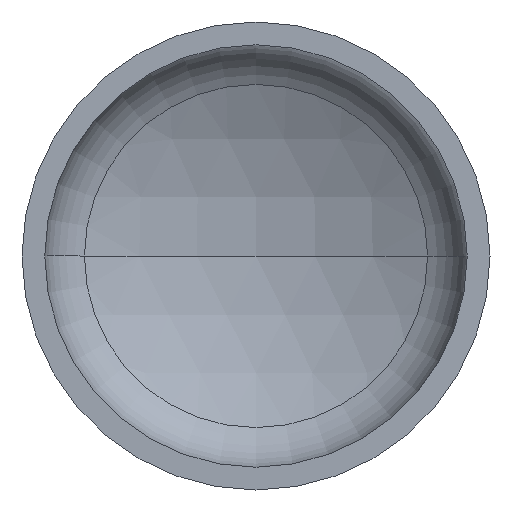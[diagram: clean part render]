
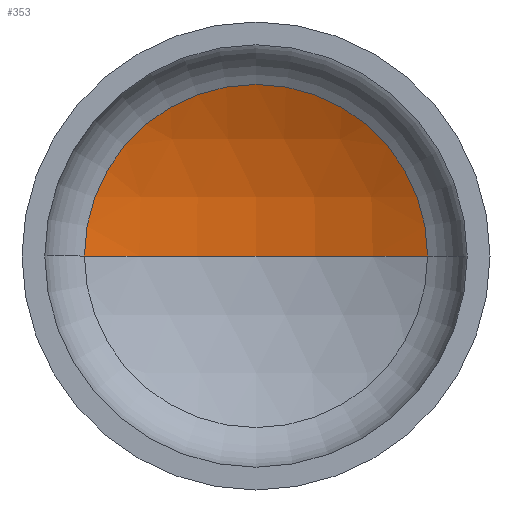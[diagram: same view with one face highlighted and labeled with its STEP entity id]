
A CAD part, front view. The second image highlights one B-rep face of the part: STEP entity #353.
In plain terms, the highlighted spherical face has radius 640 mm.
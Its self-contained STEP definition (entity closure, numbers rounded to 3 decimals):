
#6 = ORIENTED_EDGE ( 'NONE', *, *, #188, .T. ) ;
#10 = AXIS2_PLACEMENT_3D ( 'NONE', #358, #310, #227 ) ;
#30 = AXIS2_PLACEMENT_3D ( 'NONE', #43, #82, #69 ) ;
#31 = EDGE_LOOP ( 'NONE', ( #209, #6, #144 ) ) ;
#32 = AXIS2_PLACEMENT_3D ( 'NONE', #282, #252, #247 ) ;
#40 = AXIS2_PLACEMENT_3D ( 'NONE', #225, #223, #224 ) ;
#43 = CARTESIAN_POINT ( 'NONE',  ( 0., -337.743, 0. ) ) ;
#54 = VERTEX_POINT ( 'NONE', #256 ) ;
#69 = DIRECTION ( 'NONE',  ( 1., 0., 0. ) ) ;
#82 = DIRECTION ( 'NONE',  ( 0., 0., 1. ) ) ;
#108 = VERTEX_POINT ( 'NONE', #316 ) ;
#144 = ORIENTED_EDGE ( 'NONE', *, *, #171, .T. ) ;
#153 = VERTEX_POINT ( 'NONE', #221 ) ;
#171 = EDGE_CURVE ( 'NONE', #54, #108, #300, .T. ) ;
#188 = EDGE_CURVE ( 'NONE', #153, #54, #410, .T. ) ;
#194 = EDGE_CURVE ( 'NONE', #153, #108, #350, .T. ) ;
#209 = ORIENTED_EDGE ( 'NONE', *, *, #194, .F. ) ;
#221 = CARTESIAN_POINT ( 'NONE',  ( 0., 302.257, 0. ) ) ;
#223 = DIRECTION ( 'NONE',  ( 0., -1., 0. ) ) ;
#224 = DIRECTION ( 'NONE',  ( 1., 0., 0. ) ) ;
#225 = CARTESIAN_POINT ( 'NONE',  ( 0., 231.103, 0. ) ) ;
#227 = DIRECTION ( 'NONE',  ( -1., 0., 0. ) ) ;
#247 = DIRECTION ( 'NONE',  ( -1., 0., 0. ) ) ;
#252 = DIRECTION ( 'NONE',  ( 0., 0., -1. ) ) ;
#256 = CARTESIAN_POINT ( 'NONE',  ( 293.282, 231.103, 0. ) ) ;
#282 = CARTESIAN_POINT ( 'NONE',  ( 0., -337.743, 0. ) ) ;
#284 = SPHERICAL_SURFACE ( 'NONE', #10, 640. ) ;
#300 = CIRCLE ( 'NONE', #40, 293.282 ) ;
#310 = DIRECTION ( 'NONE',  ( 0., 0., -1. ) ) ;
#316 = CARTESIAN_POINT ( 'NONE',  ( -293.282, 231.103, 0. ) ) ;
#325 = FACE_OUTER_BOUND ( 'NONE', #31, .T. ) ;
#350 = CIRCLE ( 'NONE', #30, 640. ) ;
#353 = ADVANCED_FACE ( 'NONE', ( #325 ), #284, .F. ) ;
#358 = CARTESIAN_POINT ( 'NONE',  ( 0., -337.743, 0. ) ) ;
#410 = CIRCLE ( 'NONE', #32, 640. ) ;
